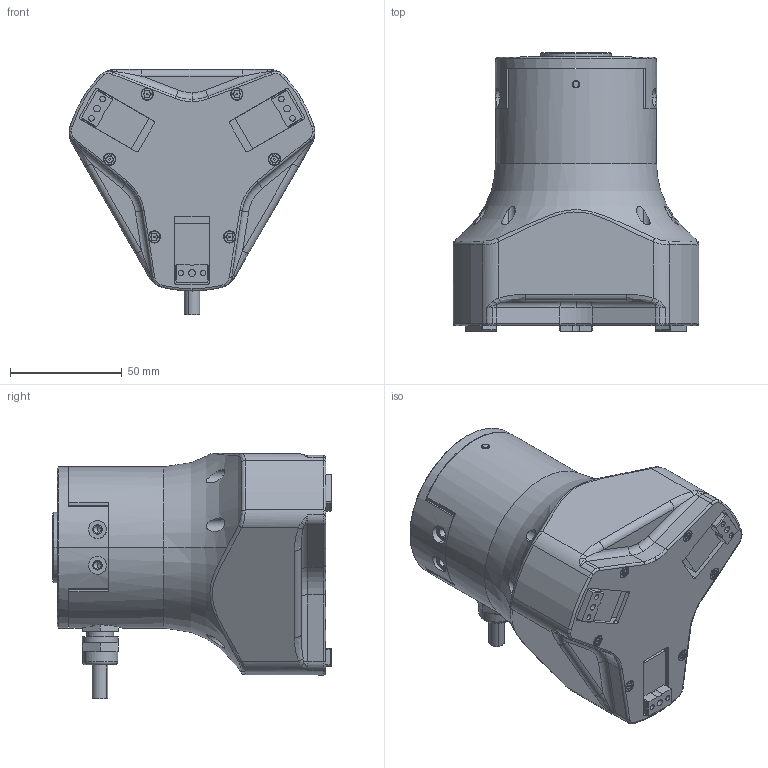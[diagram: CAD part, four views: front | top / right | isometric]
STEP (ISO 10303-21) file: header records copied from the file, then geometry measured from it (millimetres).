
FILE_DESCRIPTION (( 'STEP AP214' ), '1' );
FILE_NAME ('Z-ECG-20 （外发）.STEP', '2023-11-10T09:21:16', ( '' ), ( '' ), 'SwSTEP 2.0', 'SolidWorks 2020', '' );
FILE_SCHEMA (( 'AUTOMOTIVE_DESIGN' ));
Length unit declared in the file: millimetre
Products named in the file (4): ECG-20ㄗ俋楷褲极ㄘ; ECG-20ㄗ俋楷忒硌ㄘ; 楊擘; Z-ECG-20 ㄗ俋楷ㄘ
Assembly tree (5 placements, depth 2):
  Z-ECG-20 ㄗ俋楷ㄘ
    ECG-20ㄗ俋楷褲极ㄘ
    ECG-20ㄗ俋楷忒硌ㄘ  x3
    楊擘
Bounding box: 109.85 x 124.5 x 109.5 mm (x, y, z)
Volume: 645977.4 mm3; surface area: 70230.2 mm2
Topology: 12 solids, 16 shells, 634 faces, 1485 edges, 933 vertices
Faces by surface type: cylinder 267, plane 250, cone 51, torus 39, bspline 27
Entity records: 22341 total; most frequent: CARTESIAN_POINT 5232, DIRECTION 2979, ORIENTED_EDGE 2690, EDGE_CURVE 1345, AXIS2_PLACEMENT_3D 1174, VERTEX_POINT 853, EDGE_LOOP 652, LINE 631
